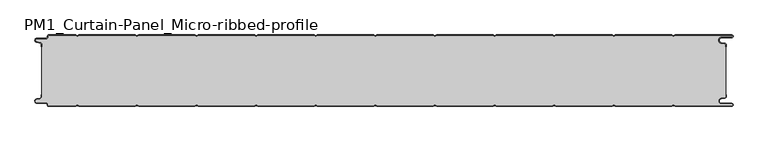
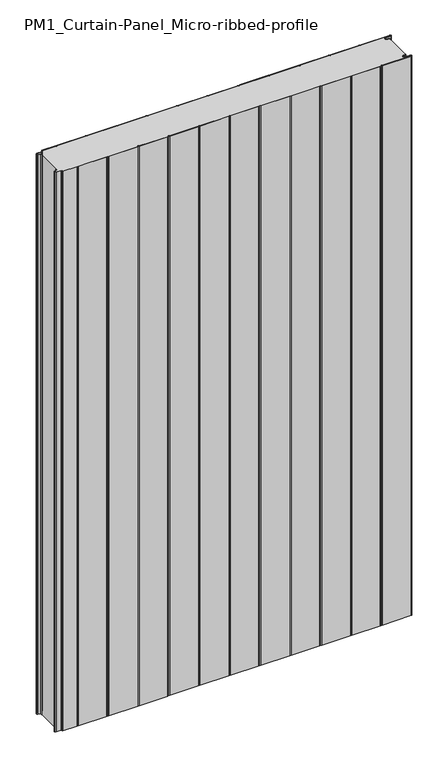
"""IFC4 building model written with IfcOpenShell, lengths in millimetres: plate geometry, PM1_Curtain-Panel_Micro-ribbed-profile : ACH_PM1_Stone-wool-Panel_120M."""

from ifc_helpers import new_model, si_unit, point, frame_2d, origin, origin_with_axes, place, context, project, spatial, polyline, circle_curve, trimmed, segment, composite_curve, outline, extrude, source, transform, mapped, element, save


def pm1_curtain_panel_micro_ribbed_profile_48cc8e15(model_context):
    return source(origin(), model_context, "Body", "SweptSolid", [
        extrude(outline(composite_curve([segment(trimmed(circle_curve(frame_2d((-577.0, -15.878557)), 2.0), [point((-575.0, -15.878557))], [point((-576.5500978, -13.9298169))], True, "CARTESIAN"), True, "CONTINUOUS"), segment(polyline([(-576.5500978, -13.9298169), (-582.7098239, -12.507732)]), True, "CONTINUOUS"), segment(trimmed(circle_curve(frame_2d((-581.9, -9.0)), 3.6), [point((-582.7098239, -12.507732))], [point((-581.9, -5.4))], False, "CARTESIAN"), True, "CONTINUOUS"), segment(polyline([(-581.9, -5.4), (-566.4, -5.4)]), True, "CONTINUOUS"), segment(trimmed(circle_curve(frame_2d((-566.4, -3.4)), 2.0), [point((-566.4, -5.4))], [point((-564.4, -3.4))], True, "CARTESIAN"), True, "CONTINUOUS"), segment(polyline([(-564.4, -3.4), (-564.4, -2.0)]), True, "CONTINUOUS"), segment(trimmed(circle_curve(frame_2d((-562.4, -2.0)), 2.0), [point((-564.4, -2.0))], [point((-562.4, 0.0))], False, "CARTESIAN"), True, "CONTINUOUS"), segment(polyline([(-562.4, 0.0), (-517.0999995, 0.0), (-514.4, -1.5588455), (-511.7000005, 0.0), (-417.0999995, 0.0), (-414.4, -1.5588455), (-411.7000005, 0.0), (-317.0999995, 0.0), (-314.4, -1.5588455), (-311.7000005, 0.0), (-217.0999995, 0.0), (-214.4, -1.5588455), (-211.7000005, 0.0), (-117.0999995, 0.0), (-114.4, -1.5588455), (-111.7000005, 0.0), (-17.0999995, 0.0), (-14.4, -1.5588455), (-11.7000005, 0.0), (82.9000005, 0.0), (85.6, -1.5588455), (88.2999995, 0.0), (182.9000005, 0.0), (185.6, -1.5588455), (188.2999995, 0.0), (282.9000005, 0.0), (285.6, -1.5588455), (288.2999995, 0.0), (382.9000005, 0.0), (385.6, -1.5588455), (388.2999995, 0.0), (482.9000005, 0.0), (485.6, -1.5588455), (488.2999995, 0.0), (583.1, 0.0)]), True, "CONTINUOUS"), segment(trimmed(circle_curve(frame_2d((583.1, -2.5)), 2.5), [point((583.1, 0.0))], [point((583.1, -5.0))], False, "CARTESIAN"), True, "CONTINUOUS"), segment(polyline([(583.1, -5.0), (566.1, -5.0)]), True, "CONTINUOUS"), segment(trimmed(circle_curve(frame_2d((566.1, -9.0)), 4.0), [point((566.1, -5.0))], [point((565.405407, -12.939231))], True, "CARTESIAN"), True, "CONTINUOUS"), segment(polyline([(565.405407, -12.939231), (571.8514855, -14.0758491)]), True, "CONTINUOUS"), segment(trimmed(circle_curve(frame_2d((571.4, -16.6363492)), 2.6), [point((571.8514855, -14.0758491))], [point((574.0, -16.6363492))], False, "CARTESIAN"), True, "CONTINUOUS"), segment(polyline([(574.0, -16.6363492), (574.0, -20.0), (573.2, -20.0), (573.2, -16.6363492)]), True, "CONTINUOUS"), segment(trimmed(circle_curve(frame_2d((571.4, -16.6363492)), 1.8), [point((573.2, -16.6363492))], [point((571.7125669, -14.8636953))], True, "CARTESIAN"), True, "CONTINUOUS"), segment(polyline([(571.7125669, -14.8636953), (565.2664884, -13.7270772)]), True, "CONTINUOUS"), segment(trimmed(circle_curve(frame_2d((566.1, -9.0)), 4.8), [point((565.2664884, -13.7270772))], [point((566.1, -4.2))], False, "CARTESIAN"), True, "CONTINUOUS"), segment(polyline([(566.1, -4.2), (583.1, -4.2)]), True, "CONTINUOUS"), segment(trimmed(circle_curve(frame_2d((583.1, -2.5)), 1.7), [point((583.1, -4.2))], [point((583.1, -0.8))], True, "CARTESIAN"), True, "CONTINUOUS"), segment(polyline([(583.1, -0.8), (488.5143588, -0.8), (485.6, -2.482606), (482.6856412, -0.8), (388.5143588, -0.8), (385.6, -2.482606), (382.6856412, -0.8), (288.5143588, -0.8), (285.6, -2.482606), (282.6856412, -0.8), (188.5143588, -0.8), (185.6, -2.482606), (182.6856412, -0.8), (88.5143588, -0.8), (85.6, -2.482606), (82.6856412, -0.8), (-11.4856412, -0.8), (-14.4, -2.482606), (-17.3143588, -0.8), (-111.4856412, -0.8), (-114.4, -2.482606), (-117.3143588, -0.8), (-211.4856412, -0.8), (-214.4, -2.482606), (-217.3143588, -0.8), (-311.4856412, -0.8), (-314.4, -2.482606), (-317.3143588, -0.8), (-411.4856412, -0.8), (-414.4, -2.482606), (-417.3143588, -0.8), (-511.4856412, -0.8), (-514.4, -2.482606), (-517.3143588, -0.8), (-562.4, -0.8)]), True, "CONTINUOUS"), segment(trimmed(circle_curve(frame_2d((-562.4, -2.0)), 1.2), [point((-562.4, -0.8))], [point((-563.6, -2.0))], True, "CARTESIAN"), True, "CONTINUOUS"), segment(polyline([(-563.6, -2.0), (-563.6, -3.4)]), True, "CONTINUOUS"), segment(trimmed(circle_curve(frame_2d((-566.4, -3.4)), 2.8), [point((-563.6, -3.4))], [point((-566.4, -6.2))], False, "CARTESIAN"), True, "CONTINUOUS"), segment(polyline([(-566.4, -6.2), (-581.9, -6.2)]), True, "CONTINUOUS"), segment(trimmed(circle_curve(frame_2d((-581.9, -9.0)), 2.8), [point((-581.9, -6.2))], [point((-582.529863, -11.7282362))], True, "CARTESIAN"), True, "CONTINUOUS"), segment(polyline([(-582.529863, -11.7282362), (-576.370137, -13.150321)]), True, "CONTINUOUS"), segment(trimmed(circle_curve(frame_2d((-577.0, -15.878557)), 2.8), [point((-576.370137, -13.150321))], [point((-574.2, -15.878557))], False, "CARTESIAN"), True, "CONTINUOUS"), segment(polyline([(-574.2, -15.878557), (-574.2, -20.0), (-575.0, -20.0), (-575.0, -15.878557)]), True, "CONTINUOUS")], self_intersect=False)), origin_with_axes(), (0.0, 0.0, 1.0), 1945.7507136),
        extrude(outline(composite_curve([segment(polyline([(-574.2, -104.1214426), (-574.2, -15.8785573)]), True, "CONTINUOUS"), segment(trimmed(circle_curve(frame_2d((-577.0, -15.8785573)), 2.8), [point((-574.2, -15.8785573))], [point((-576.370137, -13.1503212))], True, "CARTESIAN"), True, "CONTINUOUS"), segment(polyline([(-576.370137, -13.1503212), (-582.5298631, -11.7282362)]), True, "CONTINUOUS"), segment(trimmed(circle_curve(frame_2d((-581.9, -9.0)), 2.8), [point((-582.5298631, -11.7282362))], [point((-581.9, -6.2))], False, "CARTESIAN"), True, "CONTINUOUS"), segment(polyline([(-581.9, -6.2), (-566.4000001, -6.2)]), True, "CONTINUOUS"), segment(trimmed(circle_curve(frame_2d((-566.4000001, -3.4)), 2.8), [point((-566.4000001, -6.2))], [point((-563.6000001, -3.4))], True, "CARTESIAN"), True, "CONTINUOUS"), segment(polyline([(-563.6000001, -3.4), (-563.6000001, -2.0)]), True, "CONTINUOUS"), segment(trimmed(circle_curve(frame_2d((-562.4000001, -2.0)), 1.2), [point((-563.6000001, -2.0))], [point((-562.4000001, -0.8))], False, "CARTESIAN"), True, "CONTINUOUS"), segment(polyline([(-562.4000001, -0.8), (-517.3143589, -0.8), (-514.4000001, -2.482606), (-511.4856412, -0.8), (-417.3143589, -0.8), (-414.4000001, -2.482606), (-411.4856412, -0.8), (-317.3143589, -0.8), (-314.4000001, -2.482606), (-311.4856412, -0.8), (-217.3143589, -0.8), (-214.4000001, -2.482606), (-211.4856412, -0.8), (-117.3143589, -0.8), (-114.4000001, -2.482606), (-111.4856412, -0.8), (-17.3143589, -0.8), (-14.4000001, -2.482606), (-11.4856412, -0.8), (82.6856411, -0.8), (85.5999999, -2.482606), (88.5143588, -0.8), (182.6856411, -0.8), (185.5999999, -2.482606), (188.5143588, -0.8), (282.6856411, -0.8), (285.5999999, -2.482606), (288.5143588, -0.8), (382.6856411, -0.8), (385.5999999, -2.482606), (388.5143588, -0.8), (482.6856411, -0.8), (485.6, -2.482606), (488.5143588, -0.8), (583.1, -0.8)]), True, "CONTINUOUS"), segment(trimmed(circle_curve(frame_2d((583.1, -2.5)), 1.7), [point((583.1, -0.8))], [point((583.1, -4.2))], False, "CARTESIAN"), True, "CONTINUOUS"), segment(polyline([(583.1, -4.2), (566.1, -4.2)]), True, "CONTINUOUS"), segment(trimmed(circle_curve(frame_2d((566.1, -9.0)), 4.8), [point((566.1, -4.2))], [point((565.2664883, -13.7270771))], True, "CARTESIAN"), True, "CONTINUOUS"), segment(polyline([(565.2664883, -13.7270771), (571.7125668, -14.8636953)]), True, "CONTINUOUS"), segment(trimmed(circle_curve(frame_2d((571.4, -16.6363492)), 1.8), [point((571.7125668, -14.8636953))], [point((573.2, -16.6363492))], False, "CARTESIAN"), True, "CONTINUOUS"), segment(polyline([(573.2, -16.6363492), (573.2, -103.3636508)]), True, "CONTINUOUS"), segment(trimmed(circle_curve(frame_2d((571.4, -103.3636508)), 1.8), [point((573.2, -103.3636508))], [point((571.7125668, -105.1363047))], False, "CARTESIAN"), True, "CONTINUOUS"), segment(polyline([(571.7125668, -105.1363047), (565.2664883, -106.2729229)]), True, "CONTINUOUS"), segment(trimmed(circle_curve(frame_2d((566.1, -111.0)), 4.8), [point((565.2664883, -106.2729229))], [point((566.1, -115.8))], True, "CARTESIAN"), True, "CONTINUOUS"), segment(polyline([(566.1, -115.8), (583.1, -115.8)]), True, "CONTINUOUS"), segment(trimmed(circle_curve(frame_2d((583.1, -117.5)), 1.7), [point((583.1, -115.8))], [point((583.1, -119.2))], False, "CARTESIAN"), True, "CONTINUOUS"), segment(polyline([(583.1, -119.2), (488.5143588, -119.2), (485.6, -117.517394), (482.6856411, -119.2), (388.5143588, -119.2), (385.5999999, -117.517394), (382.6856411, -119.2), (288.5143588, -119.2), (285.5999999, -117.517394), (282.6856411, -119.2), (188.5143588, -119.2), (185.5999999, -117.517394), (182.6856411, -119.2), (88.5143588, -119.2), (85.5999999, -117.517394), (82.6856411, -119.2), (-11.4856412, -119.2), (-14.4000001, -117.517394), (-17.3143589, -119.2), (-111.4856412, -119.2), (-114.4000001, -117.517394), (-117.3143589, -119.2), (-211.4856412, -119.2), (-214.4000001, -117.517394), (-217.3143589, -119.2), (-311.4856412, -119.2), (-314.4000001, -117.517394), (-317.3143589, -119.2), (-411.4856412, -119.2), (-414.4000001, -117.517394), (-417.3143589, -119.2), (-511.4856412, -119.2), (-514.4000001, -117.517394), (-517.3143589, -119.2), (-562.4000001, -119.2)]), True, "CONTINUOUS"), segment(trimmed(circle_curve(frame_2d((-562.4000001, -118.0)), 1.2), [point((-562.4000001, -119.2))], [point((-563.6000001, -118.0))], False, "CARTESIAN"), True, "CONTINUOUS"), segment(polyline([(-563.6000001, -118.0), (-563.6000001, -116.6)]), True, "CONTINUOUS"), segment(trimmed(circle_curve(frame_2d((-566.4000001, -116.6)), 2.8), [point((-563.6000001, -116.6))], [point((-566.4000001, -113.8))], True, "CARTESIAN"), True, "CONTINUOUS"), segment(polyline([(-566.4000001, -113.8), (-581.9, -113.8)]), True, "CONTINUOUS"), segment(trimmed(circle_curve(frame_2d((-581.9, -111.0)), 2.8), [point((-581.9, -113.8))], [point((-582.5298631, -108.2717638))], False, "CARTESIAN"), True, "CONTINUOUS"), segment(polyline([(-582.5298631, -108.2717638), (-576.370137, -106.8496788)]), True, "CONTINUOUS"), segment(trimmed(circle_curve(frame_2d((-577.0, -104.1214426)), 2.8), [point((-576.370137, -106.8496788))], [point((-574.2, -104.1214426))], True, "CARTESIAN"), True, "CONTINUOUS")], self_intersect=False)), origin_with_axes(), (0.0, 0.0, 1.0), 1945.7507136),
        extrude(outline(composite_curve([segment(polyline([(-575.0, -104.121443), (-575.0, -100.0), (-574.2, -100.0), (-574.2, -104.121443)]), True, "CONTINUOUS"), segment(trimmed(circle_curve(frame_2d((-577.0, -104.121443)), 2.8), [point((-574.2, -104.121443))], [point((-576.370137, -106.8496792))], False, "CARTESIAN"), True, "CONTINUOUS"), segment(polyline([(-576.370137, -106.8496792), (-582.529863, -108.271764)]), True, "CONTINUOUS"), segment(trimmed(circle_curve(frame_2d((-581.9, -111.0)), 2.8), [point((-582.529863, -108.271764))], [point((-581.9, -113.8))], True, "CARTESIAN"), True, "CONTINUOUS"), segment(polyline([(-581.9, -113.8), (-566.4, -113.8)]), True, "CONTINUOUS"), segment(trimmed(circle_curve(frame_2d((-566.4, -116.6)), 2.8), [point((-566.4, -113.8))], [point((-563.6, -116.6))], False, "CARTESIAN"), True, "CONTINUOUS"), segment(polyline([(-563.6, -116.6), (-563.6, -118.0)]), True, "CONTINUOUS"), segment(trimmed(circle_curve(frame_2d((-562.4, -118.0)), 1.2), [point((-563.6, -118.0))], [point((-562.4, -119.2))], True, "CARTESIAN"), True, "CONTINUOUS"), segment(polyline([(-562.4, -119.2), (-517.3143588, -119.2), (-514.4, -117.517394), (-511.4856412, -119.2), (-417.3143588, -119.2), (-414.4, -117.517394), (-411.4856412, -119.2), (-317.3143588, -119.2), (-314.4, -117.517394), (-311.4856412, -119.2), (-217.3143588, -119.2), (-214.4, -117.517394), (-211.4856412, -119.2), (-117.3143588, -119.2), (-114.4, -117.517394), (-111.4856412, -119.2), (-17.3143588, -119.2), (-14.4, -117.517394), (-11.4856412, -119.2), (82.6856412, -119.2), (85.6, -117.517394), (88.5143588, -119.2), (182.6856412, -119.2), (185.6, -117.517394), (188.5143588, -119.2), (282.6856412, -119.2), (285.6, -117.517394), (288.5143588, -119.2), (382.6856412, -119.2), (385.6, -117.517394), (388.5143588, -119.2), (482.6856412, -119.2), (485.6, -117.517394), (488.5143588, -119.2), (583.1, -119.2)]), True, "CONTINUOUS"), segment(trimmed(circle_curve(frame_2d((583.1, -117.5)), 1.7), [point((583.1, -119.2))], [point((583.1, -115.8))], True, "CARTESIAN"), True, "CONTINUOUS"), segment(polyline([(583.1, -115.8), (566.1, -115.8)]), True, "CONTINUOUS"), segment(trimmed(circle_curve(frame_2d((566.1, -111.0)), 4.8), [point((566.1, -115.8))], [point((565.2664884, -106.2729229))], False, "CARTESIAN"), True, "CONTINUOUS"), segment(polyline([(565.2664884, -106.2729229), (571.7125669, -105.1363047)]), True, "CONTINUOUS"), segment(trimmed(circle_curve(frame_2d((571.4, -103.3636508)), 1.8), [point((571.7125669, -105.1363047))], [point((573.2, -103.3636508))], True, "CARTESIAN"), True, "CONTINUOUS"), segment(polyline([(573.2, -103.3636508), (573.2, -100.0), (574.0, -100.0), (574.0, -103.3636508)]), True, "CONTINUOUS"), segment(trimmed(circle_curve(frame_2d((571.4, -103.3636508)), 2.6), [point((574.0, -103.3636508))], [point((571.8514855, -105.9241509))], False, "CARTESIAN"), True, "CONTINUOUS"), segment(polyline([(571.8514855, -105.9241509), (565.405407, -107.060769)]), True, "CONTINUOUS"), segment(trimmed(circle_curve(frame_2d((566.1, -111.0)), 4.0), [point((565.405407, -107.060769))], [point((566.1, -115.0))], True, "CARTESIAN"), True, "CONTINUOUS"), segment(polyline([(566.1, -115.0), (583.1, -115.0)]), True, "CONTINUOUS"), segment(trimmed(circle_curve(frame_2d((583.1, -117.5)), 2.5), [point((583.1, -115.0))], [point((583.1, -120.0))], False, "CARTESIAN"), True, "CONTINUOUS"), segment(polyline([(583.1, -120.0), (488.2999995, -120.0), (485.6, -118.4411545), (482.9000005, -120.0), (388.2999995, -120.0), (385.6, -118.4411545), (382.9000005, -120.0), (288.2999995, -120.0), (285.6, -118.4411545), (282.9000005, -120.0), (188.2999995, -120.0), (185.6, -118.4411545), (182.9000005, -120.0), (88.2999995, -120.0), (85.6, -118.4411545), (82.9000005, -120.0), (-11.7000005, -120.0), (-14.4, -118.4411545), (-17.0999995, -120.0), (-111.7000005, -120.0), (-114.4, -118.4411545), (-117.0999995, -120.0), (-211.7000005, -120.0), (-214.4, -118.4411545), (-217.0999995, -120.0), (-311.7000005, -120.0), (-314.4, -118.4411545), (-317.0999995, -120.0), (-411.7000005, -120.0), (-414.4, -118.4411545), (-417.0999995, -120.0), (-511.7000005, -120.0), (-514.4, -118.4411545), (-517.0999995, -120.0), (-562.4, -120.0)]), True, "CONTINUOUS"), segment(trimmed(circle_curve(frame_2d((-562.4, -118.0)), 2.0), [point((-562.4, -120.0))], [point((-564.4, -118.0))], False, "CARTESIAN"), True, "CONTINUOUS"), segment(polyline([(-564.4, -118.0), (-564.4, -116.6)]), True, "CONTINUOUS"), segment(trimmed(circle_curve(frame_2d((-566.4, -116.6)), 2.0), [point((-564.4, -116.6))], [point((-566.4, -114.6))], True, "CARTESIAN"), True, "CONTINUOUS"), segment(polyline([(-566.4, -114.6), (-581.9, -114.6)]), True, "CONTINUOUS"), segment(trimmed(circle_curve(frame_2d((-581.9, -111.0)), 3.6), [point((-581.9, -114.6))], [point((-582.7098239, -107.4922678))], False, "CARTESIAN"), True, "CONTINUOUS"), segment(polyline([(-582.7098239, -107.4922678), (-576.5500979, -106.070183)]), True, "CONTINUOUS"), segment(trimmed(circle_curve(frame_2d((-577.0, -104.121443)), 2.0), [point((-576.5500979, -106.070183))], [point((-575.0, -104.121443))], True, "CARTESIAN"), True, "CONTINUOUS")], self_intersect=False)), origin_with_axes(), (0.0, 0.0, 1.0), 1945.7507136),
    ])


if __name__ == "__main__":
    model = new_model("IFC4")
    model_context = context("Model", 3, world=origin())
    ifc_project = project(units=[si_unit("LENGTHUNIT", "METRE", prefix="MILLI")], contexts=[model_context])
    site = spatial("IfcSite", under=ifc_project)
    building = spatial("IfcBuilding", under=site)
    placement = place(None, origin())
    pm1_curtain_panel_micro_ribbed_profile_shape = pm1_curtain_panel_micro_ribbed_profile_48cc8e15(model_context)
    element("IfcPlate", 1, ObjectType="PM1_Curtain-Panel_Micro-ribbed-profile : ACH_PM1_Stone-wool-Panel_120M", at=placement, inside=building, context=model_context, shape_type="MappedRepresentation", body=[
        mapped(pm1_curtain_panel_micro_ribbed_profile_shape, transform((0.0, 0.0, 0.0), x_axis=(1.0, 0.0, 0.0), y_axis=(0.0, 1.0, 0.0), z_axis=(0.0, 0.0, 1.0))),
    ])
    save(model, "model.ifc")
